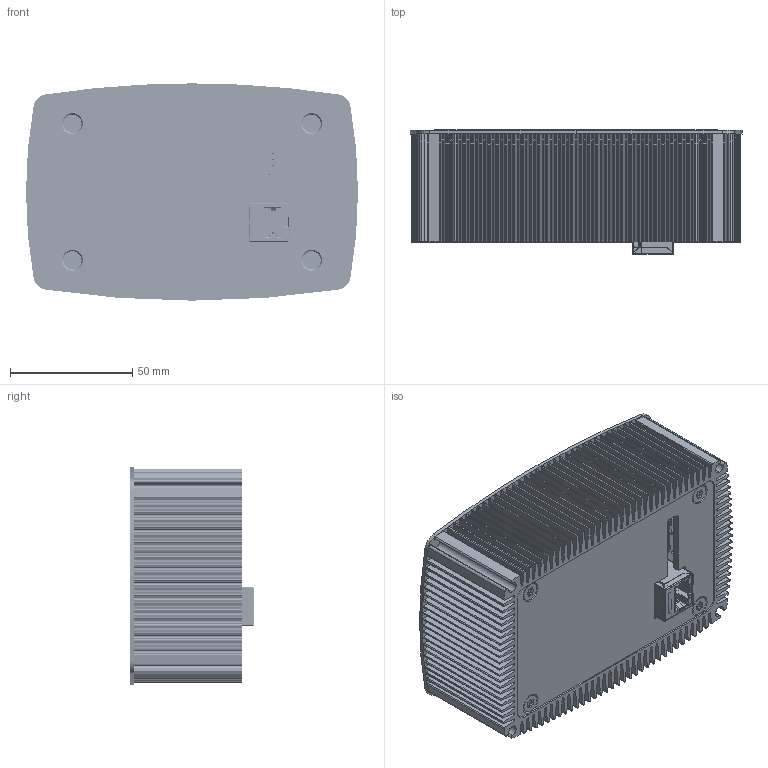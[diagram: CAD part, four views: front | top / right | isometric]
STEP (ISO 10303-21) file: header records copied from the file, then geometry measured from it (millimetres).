
FILE_DESCRIPTION (( 'STEP AP214' ), '1' );
FILE_NAME ('TOFcam-660_hull.STEP', '2023-09-13T07:22:24', ( '' ), ( '' ), 'SwSTEP 2.0', 'SolidWorks 2020', '' );
FILE_SCHEMA (( 'AUTOMOTIVE_DESIGN' ));
Length unit declared in the file: millimetre
Products named in the file (1): TOFcam-660_hull
Bounding box: 136 x 51.06 x 89 mm (x, y, z)
Surface area: 181540.5 mm2 (no closed solid volume)
Topology: 0 solids, 1690 shells, 5688 faces, 26279 edges, 22025 vertices
Faces by surface type: plane 3246, cylinder 2054, bspline 275, cone 68, torus 31, sphere 14
Entity records: 365702 total; most frequent: CARTESIAN_POINT 101702, DIRECTION 38980, ORIENTED_EDGE 34802, EDGE_CURVE 26167, VERTEX_POINT 22025, LINE 16494, VECTOR 16494, AXIS2_PLACEMENT_3D 11243
